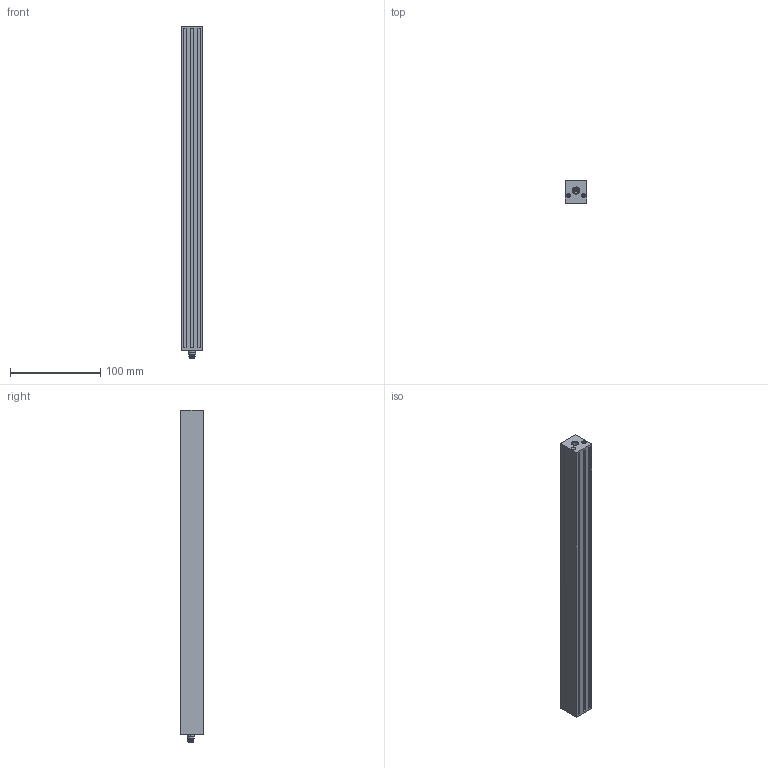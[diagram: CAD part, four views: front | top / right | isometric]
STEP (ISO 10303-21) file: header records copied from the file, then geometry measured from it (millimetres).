
FILE_DESCRIPTION(('STEP AP214'),'1');
FILE_NAME('F:/3D Zeichnungen/3D Modelle/tmp0.STEP','2019-12-10T12:37:07',(' '),(' '),'Spatial InterOp 3D',' ',' ');
FILE_SCHEMA(('automotive_design'));
Length unit declared in the file: millimetre
Products named in the file (1): 1
Bounding box: 24 x 25.5 x 368.7 mm (x, y, z)
Volume: 88156.3 mm3; surface area: 89194.4 mm2
Topology: 1 solids, 10 shells, 324 faces, 872 edges, 547 vertices
Faces by surface type: plane 139, cylinder 98, cone 76, torus 6, sphere 3, bspline 2
Entity records: 14261 total; most frequent: CARTESIAN_POINT 3620, ORIENTED_EDGE 1720, DIRECTION 1600, EDGE_CURVE 860, VERTEX_POINT 547, AXIS2_PLACEMENT_3D 538, LINE 524, VECTOR 524
